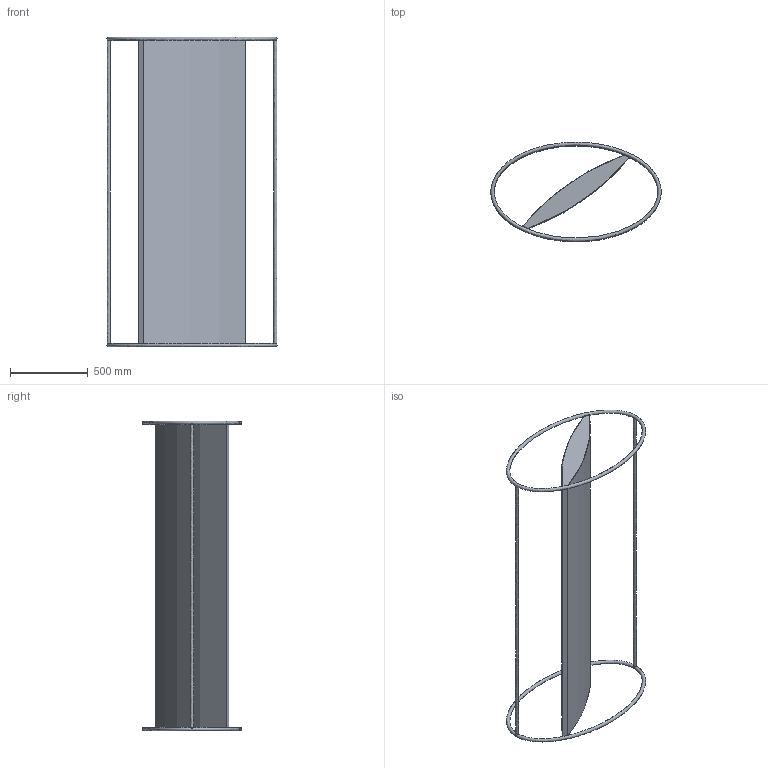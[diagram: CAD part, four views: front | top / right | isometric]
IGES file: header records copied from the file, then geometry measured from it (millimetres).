
Global section: file name: Z:\02.     PROJECTS FOR EDITORS\GREEN MOOD     ( BE )\2017_01_01    GREENMOOD General\12. MODEL FOR ARCHITECT\G-DIVIDERS_FOR ARCHITECT.igs; native system: Rhinoceros ( May 22 2017 ); preprocessor: Trout Lake IGES 012 May 22 2017; date: 180927.122039; units: millimetre
Bounding box: 1097 x 639.55 x 1997 mm (x, y, z)
Surface area: 4488648.6 mm2 (no closed solid volume)
Topology: 0 solids, 0 shells, 34 faces, 306 edges, 300 vertices
Faces by surface type: bspline 34
